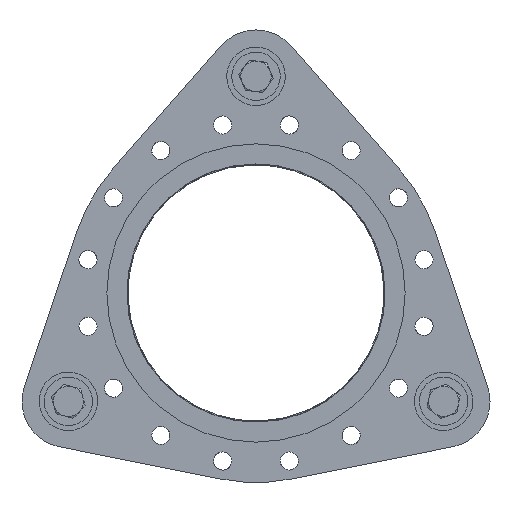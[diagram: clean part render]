
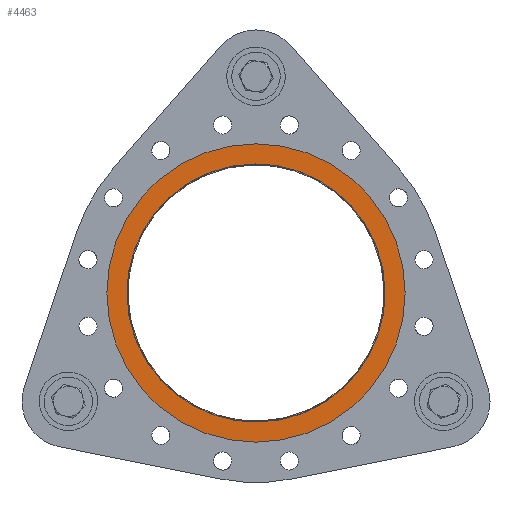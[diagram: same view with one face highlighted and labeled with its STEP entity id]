
A CAD part, front view. The second image highlights one B-rep face of the part: STEP entity #4463.
In plain terms, the highlighted planar face has unit normal (0, -1, 0).
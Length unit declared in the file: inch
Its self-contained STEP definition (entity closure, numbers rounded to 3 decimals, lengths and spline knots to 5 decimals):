
#448=PLANE('',#4891);
#648=FACE_BOUND('',#1285,.T.);
#891=FACE_OUTER_BOUND('',#1284,.T.);
#1284=EDGE_LOOP('',(#3142));
#1285=EDGE_LOOP('',(#3143));
#1819=CIRCLE('',#4887,8.);
#1820=CIRCLE('',#4889,9.25);
#2135=VERTEX_POINT('',#6966);
#2136=VERTEX_POINT('',#6969);
#2547=EDGE_CURVE('',#2135,#2135,#1819,.T.);
#2548=EDGE_CURVE('',#2136,#2136,#1820,.T.);
#3142=ORIENTED_EDGE('',*,*,#2548,.T.);
#3143=ORIENTED_EDGE('',*,*,#2547,.T.);
#4463=ADVANCED_FACE('',(#891,#648),#448,.T.);
#4887=AXIS2_PLACEMENT_3D('',#6967,#5670,#5671);
#4889=AXIS2_PLACEMENT_3D('',#6970,#5674,#5675);
#4891=AXIS2_PLACEMENT_3D('',#6973,#5678,#5679);
#5670=DIRECTION('center_axis',(0.,1.,0.));
#5671=DIRECTION('ref_axis',(-1.,0.,0.));
#5674=DIRECTION('center_axis',(0.,-1.,0.));
#5675=DIRECTION('ref_axis',(1.,0.,0.));
#5678=DIRECTION('center_axis',(0.,-1.,0.));
#5679=DIRECTION('ref_axis',(0.,0.,
1.));
#6966=CARTESIAN_POINT('',(-8.,0.,0.));
#6967=CARTESIAN_POINT('Origin',(0.,0.,
0.));
#6969=CARTESIAN_POINT('',(-9.25,0.,0.));
#6970=CARTESIAN_POINT('Origin',(0.,0.,
0.));
#6973=CARTESIAN_POINT('Origin',(0.,0.,
0.));
